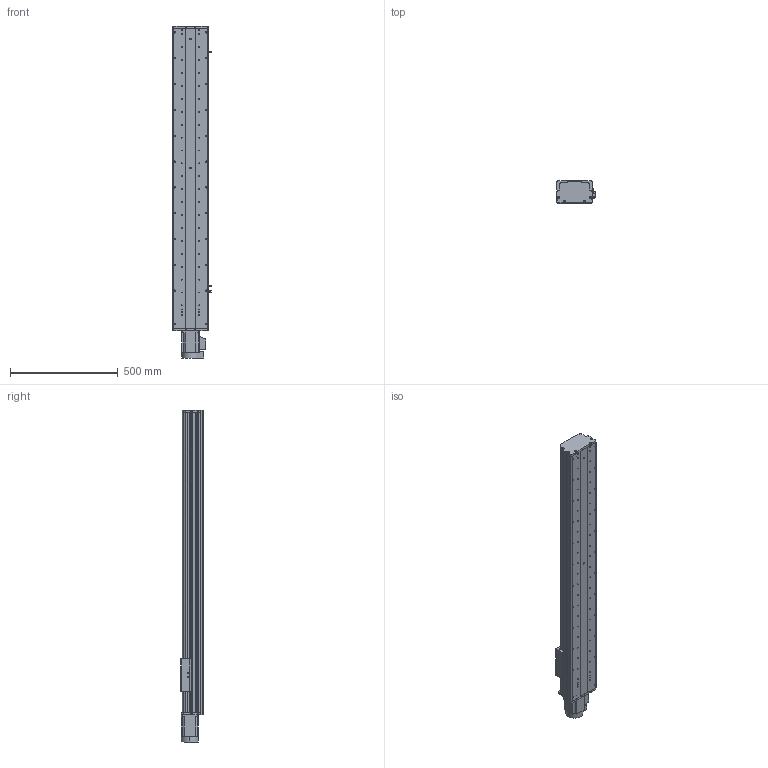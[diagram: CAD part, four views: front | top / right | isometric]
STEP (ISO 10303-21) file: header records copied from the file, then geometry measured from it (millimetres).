
FILE_DESCRIPTION (( 'STEP AP214' ), '1' );
FILE_NAME ('KSD165S-S1100-MN-CM.STEP', '2017-08-07T08:22:11', ( '微软用户' ), ( '微软中国' ), 'SwSTEP 2.0', 'SolidWorks 2014', '' );
FILE_SCHEMA (( 'AUTOMOTIVE_DESIGN' ));
Length unit declared in the file: millimetre
Products named in the file (12): KSD165模组-防尘盖1-1100行程-直连不带电机座; KSD165模组底板-1100行程-直连不带电机座; 拸秶雄ん750W侜督萇儂; KSD165模组-直连不带电机座电机连接板; KSD165耀郪-佪裝-滅袉菜-3 -; C44ㄜ1912WP; 覜茼え68遵圉猾敕; U倰嫖萇假蚾璃; U倰嫖萇EEㄜSX672; KSD165耀郪-綴傷啣1; KSD165模组-丝杆滑动座-最新版; KSD165S-S1100-MN-CM
Assembly tree (15 placements, depth 2):
  KSD165S-S1100-MN-CM
    KSD165模组-丝杆滑动座-最新版
    KSD165耀郪-綴傷啣1
    U倰嫖萇EEㄜSX672  x3
    U倰嫖萇假蚾璃  x3
    覜茼え68遵圉猾敕
    C44ㄜ1912WP
    KSD165耀郪-佪裝-滅袉菜-3 -
    KSD165模组-直连不带电机座电机连接板
    拸秶雄ん750W侜督萇儂
    KSD165模组底板-1100行程-直连不带电机座
    KSD165模组-防尘盖1-1100行程-直连不带电机座
Bounding box: 178.7 x 104 x 1543 mm (x, y, z)
Volume: 8318251.8 mm3; surface area: 1856475.2 mm2
Topology: 16 solids, 16 shells, 1277 faces, 3586 edges, 2329 vertices
Faces by surface type: cylinder 699, plane 501, cone 77
Entity records: 41007 total; most frequent: CARTESIAN_POINT 9111, DIRECTION 6083, ORIENTED_EDGE 5852, EDGE_CURVE 2926, AXIS2_PLACEMENT_3D 2301, VERTEX_POINT 1921, LINE 1481, VECTOR 1481
